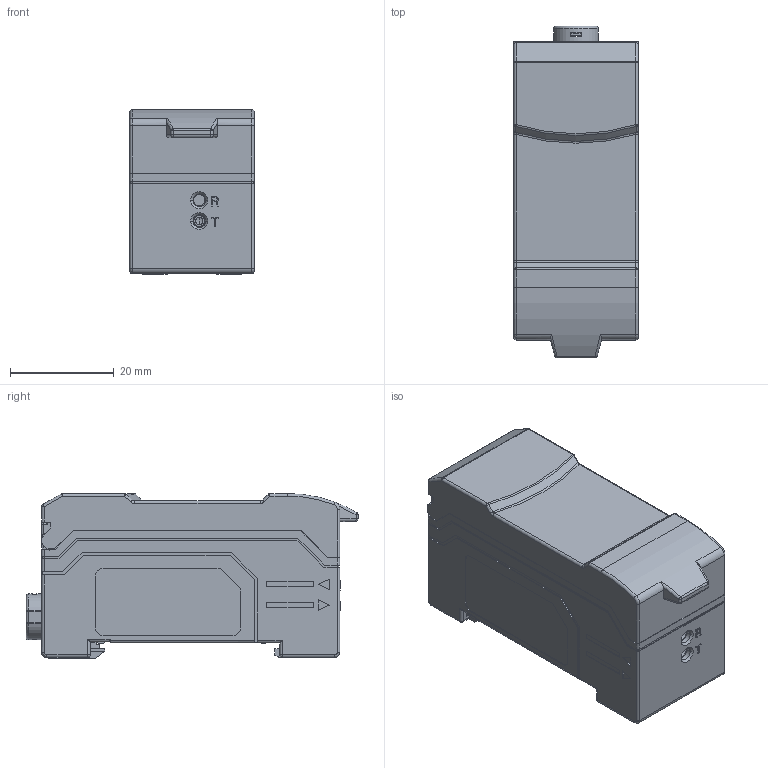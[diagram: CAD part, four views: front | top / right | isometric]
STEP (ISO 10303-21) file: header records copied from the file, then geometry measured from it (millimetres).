
FILE_DESCRIPTION(/* description */ (''),/* implementation_level */ '2;1');
FILE_NAME(/* name */ '',/* time_stamp */ '2019-01-28T10:39:07+08:00',/* author */ (''),/* organization */ (''),/* preprocessor_version */ 'ST-DEVELOPER v14',/* originating_system */ 'SIEMENS PLM Software NX 8.0',/* authorisation */ '');
FILE_SCHEMA (('AP203_CONFIGURATION_CONTROLLED_3D_DESIGN_OF_MECHANICAL_PARTS_AND_ASSEMBLIES_MIM_LF { 1 0 10303 403 2 1 2}'));
Bounding box: 24 x 64 x 31.8 mm (x, y, z)
Volume: 13404.6 mm3; surface area: 28171.9 mm2
Topology: 15 solids, 15 shells, 5501 faces, 15216 edges, 9819 vertices
Faces by surface type: plane 3588, cylinder 1704, sphere 65, torus 58, bspline 48, cone 38
Entity records: 177544 total; most frequent: CRTPNT 33198, ORNEDG 30414, DRCTN 29944, EDGCRV 15207, LINE 11070, VECTOR 11070, VRTPNT 9819, A2PL3D 9437
